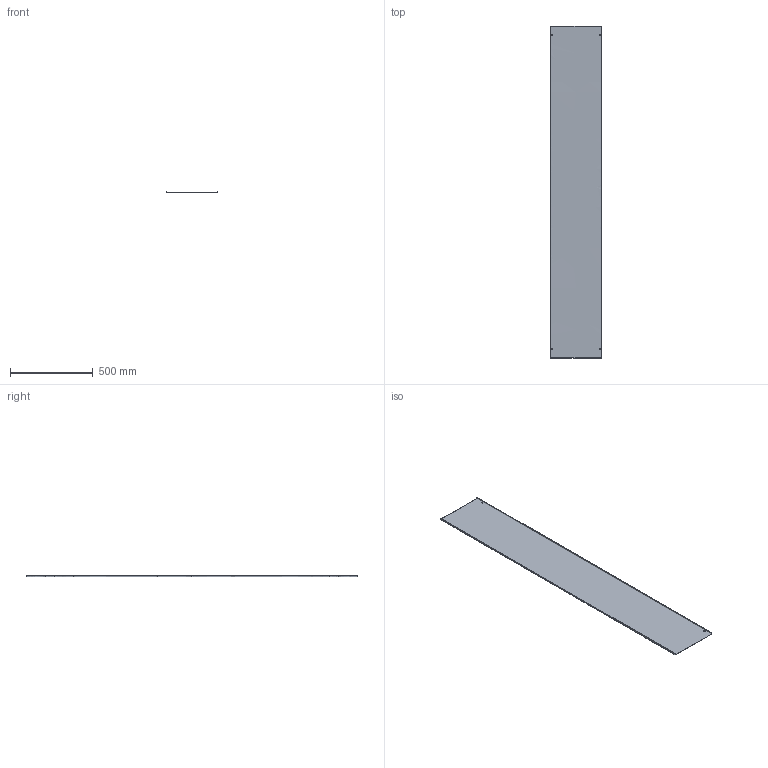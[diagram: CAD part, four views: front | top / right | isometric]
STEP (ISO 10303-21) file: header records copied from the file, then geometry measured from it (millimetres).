
FILE_DESCRIPTION(/* description */ (''),/* implementation_level */ '2;1');
FILE_NAME(/* name */ 'VZM300',/* time_stamp */ '2012-11-29T22:53:15+01:00',/* author */ (''),/* organization */ (''),/* preprocessor_version */ 'ST-DEVELOPER v10',/* originating_system */ '',/* authorisation */ '');
FILE_SCHEMA (('AUTOMOTIVE_DESIGN_CC2'));
Length unit declared in the file: millimetre
Products named in the file (1): 1
Bounding box: 311 x 2002 x 10.5 mm (x, y, z)
Surface area: 1292563.1 mm2 (no closed solid volume)
Topology: 0 solids, 22 shells, 22 faces, 120 edges, 120 vertices
Faces by surface type: plane 18, bspline 4
Entity records: 1488 total; most frequent: CARTESIAN_POINT 644, ORIENTED_EDGE 120, EDGE_CURVE 120, VERTEX_POINT 120, B_SPLINE_CURVE_WITH_KNOTS 104, EDGE_LOOP 30, COLOUR_RGB 22, FILL_AREA_STYLE_COLOUR 22
